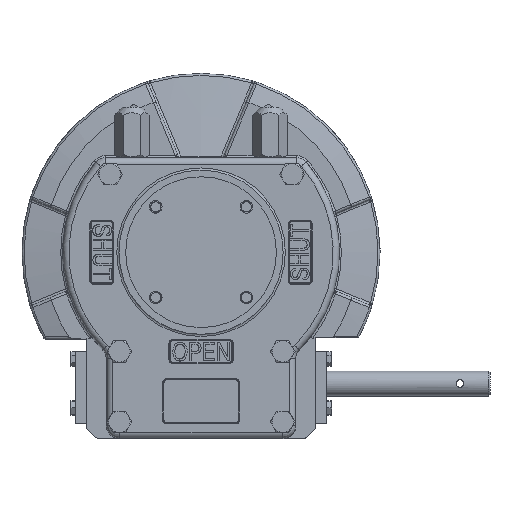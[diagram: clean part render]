
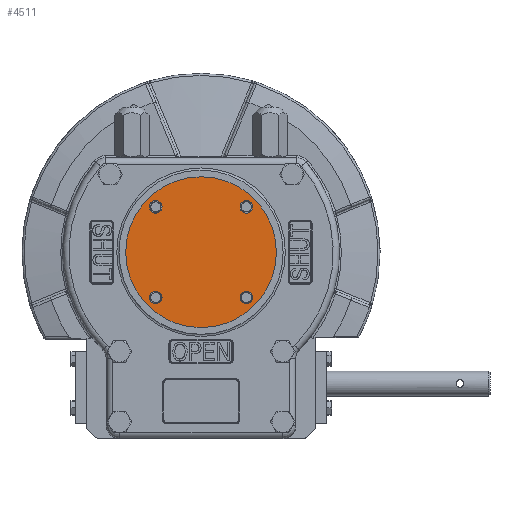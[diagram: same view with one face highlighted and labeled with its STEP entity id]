
A CAD part, top view. The second image highlights one B-rep face of the part: STEP entity #4511.
In plain terms, the highlighted planar face has unit normal (0, 0, 1).
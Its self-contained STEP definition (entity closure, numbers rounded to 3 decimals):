
#4511 = ADVANCED_FACE( '', ( #9468, #9469, #9470, #9471, #9472 ), #9473, .F. );
#9468 = FACE_BOUND( '', #32318, .T. );
#9469 = FACE_BOUND( '', #32319, .T. );
#9470 = FACE_BOUND( '', #32320, .T. );
#9471 = FACE_BOUND( '', #32321, .T. );
#9472 = FACE_OUTER_BOUND( '', #32322, .T. );
#9473 = PLANE( '', #32323 );
#32318 = EDGE_LOOP( '', ( #48236 ) );
#32319 = EDGE_LOOP( '', ( #48237 ) );
#32320 = EDGE_LOOP( '', ( #48238 ) );
#32321 = EDGE_LOOP( '', ( #48239 ) );
#32322 = EDGE_LOOP( '', ( #48240 ) );
#32323 = AXIS2_PLACEMENT_3D( '', #48241, #48242, #48243 );
#48236 = ORIENTED_EDGE( '', *, *, #51818, .T. );
#48237 = ORIENTED_EDGE( '', *, *, #55889, .T. );
#48238 = ORIENTED_EDGE( '', *, *, #55890, .T. );
#48239 = ORIENTED_EDGE( '', *, *, #55058, .T. );
#48240 = ORIENTED_EDGE( '', *, *, #50791, .F. );
#48241 = CARTESIAN_POINT( '', ( 0., 0., 96.5 ) );
#48242 = DIRECTION( '', ( 0., 0., -1. ) );
#48243 = DIRECTION( '', ( -1., 0., 0. ) );
#50791 = EDGE_CURVE( '', #56709, #56709, #56710, .T. );
#51818 = EDGE_CURVE( '', #58484, #58484, #58485, .T. );
#55058 = EDGE_CURVE( '', #63203, #63203, #63204, .T. );
#55889 = EDGE_CURVE( '', #64175, #64175, #64176, .T. );
#55890 = EDGE_CURVE( '', #64177, #64177, #64178, .T. );
#56709 = VERTEX_POINT( '', #65641 );
#56710 = CIRCLE( '', #65642, 60. );
#58484 = VERTEX_POINT( '', #71864 );
#58485 = CIRCLE( '', #71865, 5. );
#63203 = VERTEX_POINT( '', #86785 );
#63204 = CIRCLE( '', #86786, 5. );
#64175 = VERTEX_POINT( '', #89970 );
#64176 = CIRCLE( '', #89971, 5. );
#64177 = VERTEX_POINT( '', #89972 );
#64178 = CIRCLE( '', #89973, 5. );
#65641 = CARTESIAN_POINT( '', ( 60., 0., 96.5 ) );
#65642 = AXIS2_PLACEMENT_3D( '', #90983, #90984, #90985 );
#71864 = CARTESIAN_POINT( '', ( -31.062, 36.062, 96.5 ) );
#71865 = AXIS2_PLACEMENT_3D( '', #92040, #92041, #92042 );
#86785 = CARTESIAN_POINT( '', ( -36.062, -31.062, 96.5 ) );
#86786 = AXIS2_PLACEMENT_3D( '', #95280, #95281, #95282 );
#89970 = CARTESIAN_POINT( '', ( 31.062, -36.062, 96.5 ) );
#89971 = AXIS2_PLACEMENT_3D( '', #95950, #95951, #95952 );
#89972 = CARTESIAN_POINT( '', ( 36.062, 31.062, 96.5 ) );
#89973 = AXIS2_PLACEMENT_3D( '', #95953, #95954, #95955 );
#90983 = CARTESIAN_POINT( '', ( 0., 0., 96.5 ) );
#90984 = DIRECTION( '', ( 0., 0., -1. ) );
#90985 = DIRECTION( '', ( 1., 0., 0. ) );
#92040 = CARTESIAN_POINT( '', ( -36.062, 36.062, 96.5 ) );
#92041 = DIRECTION( '', ( 0., 0., -1. ) );
#92042 = DIRECTION( '', ( 1., 0., 0. ) );
#95280 = CARTESIAN_POINT( '', ( -36.062, -36.062, 96.5 ) );
#95281 = DIRECTION( '', ( 0., 0., -1. ) );
#95282 = DIRECTION( '', ( 0., 1., 0. ) );
#95950 = CARTESIAN_POINT( '', ( 36.062, -36.062, 96.5 ) );
#95951 = DIRECTION( '', ( 0., 0., -1. ) );
#95952 = DIRECTION( '', ( -1., 0., 0. ) );
#95953 = CARTESIAN_POINT( '', ( 36.062, 36.062, 96.5 ) );
#95954 = DIRECTION( '', ( 0., 0., -1. ) );
#95955 = DIRECTION( '', ( 0., -1., 0. ) );
